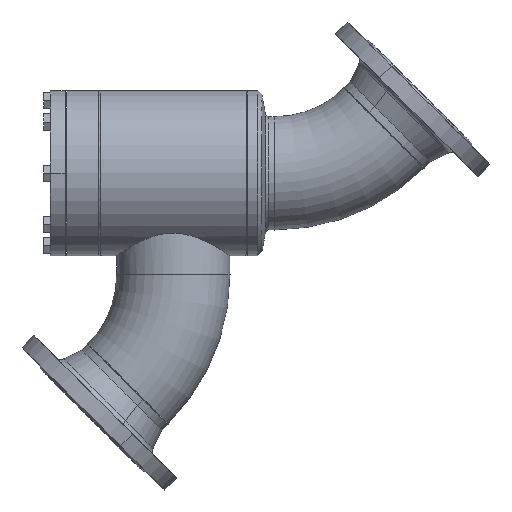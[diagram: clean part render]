
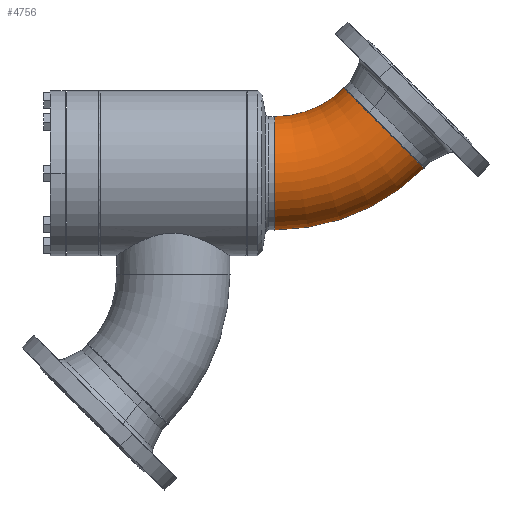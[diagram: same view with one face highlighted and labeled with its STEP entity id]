
A CAD part, left-side view. The second image highlights one B-rep face of the part: STEP entity #4756.
In plain terms, the highlighted toroidal (fillet/blend) face has major radius 229 mm and minor radius 84.15 mm.
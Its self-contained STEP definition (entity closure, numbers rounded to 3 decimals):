
#10 = EDGE_CURVE ( 'NONE', #397, #515, #979, .T. ) ;
#49 = ORIENTED_EDGE ( 'NONE', *, *, #10, .T. ) ;
#102 = ORIENTED_EDGE ( 'NONE', *, *, #305, .T. ) ;
#155 = EDGE_CURVE ( 'NONE', #626, #649, #2568, .T. ) ;
#202 = ORIENTED_EDGE ( 'NONE', *, *, #155, .F. ) ;
#252 = ORIENTED_EDGE ( 'NONE', *, *, #533, .F. ) ;
#305 = EDGE_CURVE ( 'NONE', #626, #397, #4281, .T. ) ;
#397 = VERTEX_POINT ( 'NONE', #5806 ) ;
#515 = VERTEX_POINT ( 'NONE', #7337 ) ;
#533 = EDGE_CURVE ( 'NONE', #649, #515, #7455, .T. ) ;
#626 = VERTEX_POINT ( 'NONE', #8405 ) ;
#649 = VERTEX_POINT ( 'NONE', #8507 ) ;
#979 = CIRCLE ( 'NONE', #980, 84.15 ) ;
#980 = AXIS2_PLACEMENT_3D ( 'NONE', #981, #982, #983 ) ;
#981 = CARTESIAN_POINT ( 'NONE',  ( 0., 0., 0. ) ) ;
#982 = DIRECTION ( 'NONE',  ( 1., 0., 0. ) ) ;
#983 = DIRECTION ( 'NONE',  ( 0., 0., -1. ) ) ;
#2568 = CIRCLE ( 'NONE', #2569, 84.15 ) ;
#2569 = AXIS2_PLACEMENT_3D ( 'NONE', #2570, #2571, #2572 ) ;
#2570 = CARTESIAN_POINT ( 'NONE',  ( 161.927, -67.073, 0. ) ) ;
#2571 = DIRECTION ( 'NONE',  ( 0.707, -0.707, 0. ) ) ;
#2572 = DIRECTION ( 'NONE',  ( 0., 0., -1. ) ) ;
#4281 = CIRCLE ( 'NONE', #4282, 144.85 ) ;
#4282 = AXIS2_PLACEMENT_3D ( 'NONE', #4283, #4284, #4285 ) ;
#4283 = CARTESIAN_POINT ( 'NONE',  ( 0., -229., 0. ) ) ;
#4284 = DIRECTION ( 'NONE',  ( 0., 0., 1. ) ) ;
#4285 = DIRECTION ( 'NONE',  ( 1., 0., 0. ) ) ;
#4522 = EDGE_LOOP ( 'NONE', ( #252, #202, #102, #49 ) ) ;
#4756 = ADVANCED_FACE ( 'NONE', ( #5104 ), #5105, .T. ) ;
#5104 = FACE_OUTER_BOUND ( 'NONE', #4522, .T. ) ;
#5105 = TOROIDAL_SURFACE ( 'NONE', #5106, 229., 84.15 ) ;
#5106 = AXIS2_PLACEMENT_3D ( 'NONE', #5107, #5109, #5110 ) ;
#5107 = CARTESIAN_POINT ( 'NONE',  ( 0., -229., 0. ) ) ;
#5109 = DIRECTION ( 'NONE',  ( 0., 0., 1. ) ) ;
#5110 = DIRECTION ( 'NONE',  ( 1., 0., 0. ) ) ;
#5806 = CARTESIAN_POINT ( 'NONE',  ( 0., -84.15, 0. ) ) ;
#7337 = CARTESIAN_POINT ( 'NONE',  ( 0., 84.15, 0. ) ) ;
#7455 = CIRCLE ( 'NONE', #7456, 313.15 ) ;
#7456 = AXIS2_PLACEMENT_3D ( 'NONE', #7457, #7458, #7459 ) ;
#7457 = CARTESIAN_POINT ( 'NONE',  ( 0., -229., 0. ) ) ;
#7458 = DIRECTION ( 'NONE',  ( 0., 0., 1. ) ) ;
#7459 = DIRECTION ( 'NONE',  ( 1., 0., 0. ) ) ;
#8405 = CARTESIAN_POINT ( 'NONE',  ( 102.424, -126.576, 0. ) ) ;
#8507 = CARTESIAN_POINT ( 'NONE',  ( 221.43, -7.57, 0. ) ) ;
